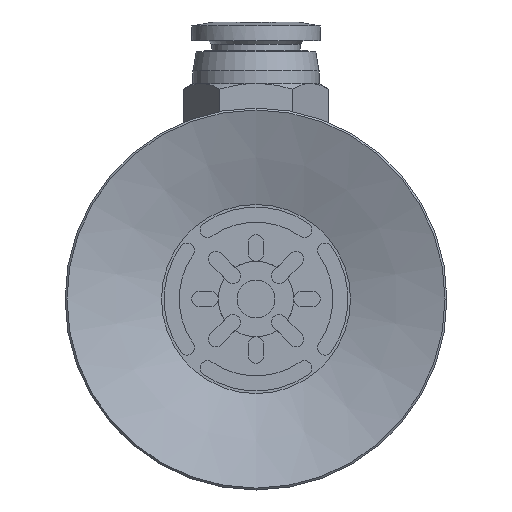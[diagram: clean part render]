
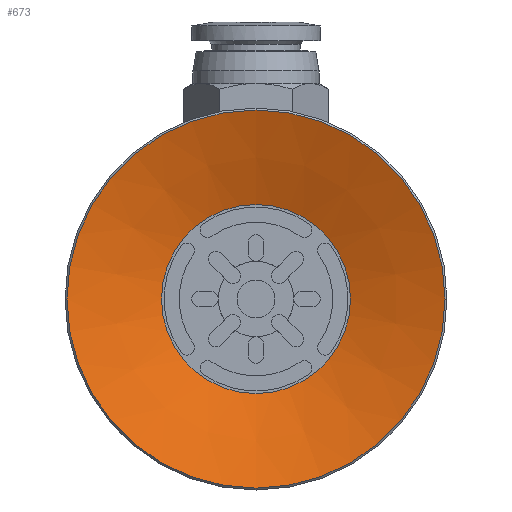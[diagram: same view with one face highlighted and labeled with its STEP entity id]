
A CAD part, front view. The second image highlights one B-rep face of the part: STEP entity #673.
In plain terms, the highlighted conical face has half-angle 70.201 degrees and reference radius 7.5 mm.
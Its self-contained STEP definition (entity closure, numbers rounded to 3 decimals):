
#673=ADVANCED_FACE('',(#1195,#1196),#1197,.F.);
#1195=FACE_BOUND('',#1940,.T.);
#1196=FACE_OUTER_BOUND('',#1941,.T.);
#1197=CONICAL_SURFACE('',#1942,7.5,1.225);
#1940=EDGE_LOOP('',(#3489));
#1941=EDGE_LOOP('',(#3490));
#1942=AXIS2_PLACEMENT_3D('',#3491,#3492,#3493);
#3489=ORIENTED_EDGE('',*,*,#3949,.F.);
#3490=ORIENTED_EDGE('',*,*,#3883,.T.);
#3491=CARTESIAN_POINT('',(0.0,0.0,2.7));
#3492=DIRECTION('',(0.0,0.,-1.0));
#3493=DIRECTION('',(0.0,1.0,0.));
#3883=EDGE_CURVE('',#4591,#4591,#4592,.T.);
#3949=EDGE_CURVE('',#4705,#4705,#4706,.T.);
#4591=VERTEX_POINT('',#6181);
#4592=CIRCLE('',#6182,15.0);
#4705=VERTEX_POINT('',#6320);
#4706=CIRCLE('',#6321,7.5);
#6181=CARTESIAN_POINT('',(0.0,15.0,0.));
#6182=AXIS2_PLACEMENT_3D('',#6968,#6969,#6970);
#6320=CARTESIAN_POINT('',(0.0,7.5,2.7));
#6321=AXIS2_PLACEMENT_3D('',#7116,#7117,#7118);
#6968=CARTESIAN_POINT('',(0.0,0.0,0.0));
#6969=DIRECTION('',(0.0,0.,-1.0));
#6970=DIRECTION('',(0.0,1.0,0.));
#7116=CARTESIAN_POINT('',(0.0,0.0,2.7));
#7117=DIRECTION('',(0.0,0.,-1.0));
#7118=DIRECTION('',(0.0,1.0,0.));
